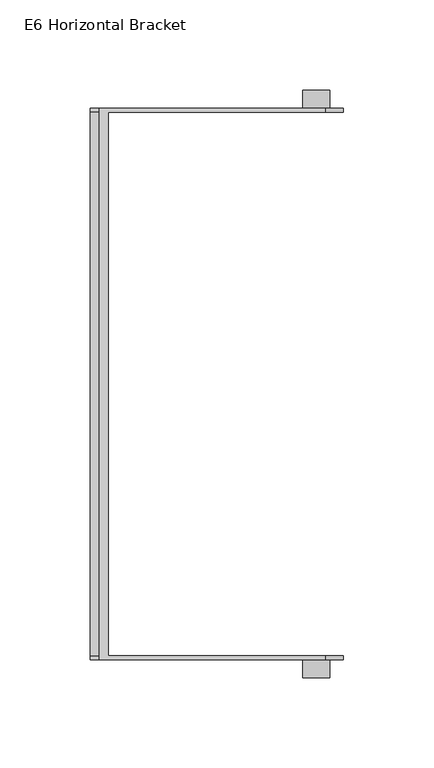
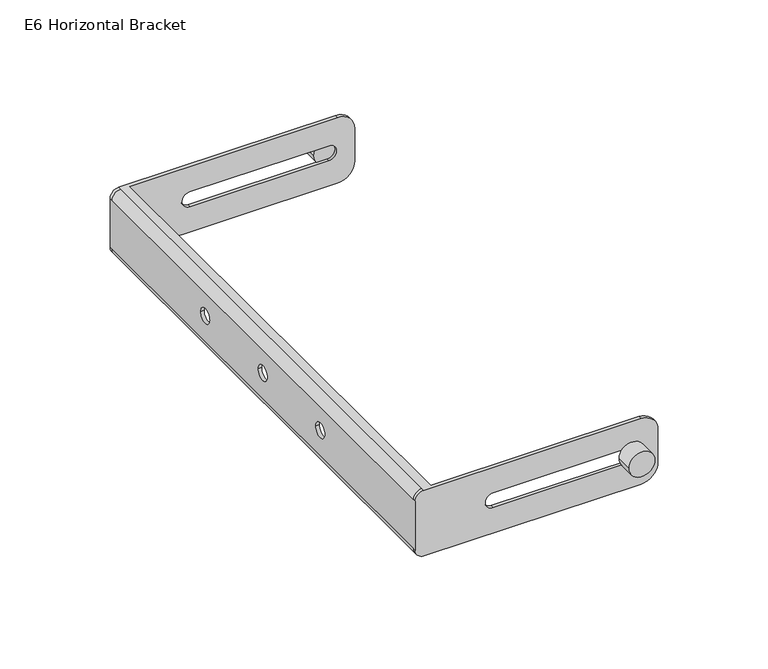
"""IFC4 building model written with IfcOpenShell, lengths in millimetres: proxy geometry, d&b E-Series E6 Horizontal Bracket : E6 Horizontal Bracket."""

from ifc_helpers import new_model, si_unit, point, frame, frame_2d, origin, place, context, project, spatial, polyline, circle_curve, trimmed, segment, composite_curve, outline, extrude, source, transform, mapped, element, save
from ifc_brep_helpers import plane_surface, cylinder_surface, revolved_surface, advanced_brep


def e6_horizontal_bracket_a06f2867(model_context):
    return source(origin(), model_context, "Body", "SolidModel", [
        extrude(outline(composite_curve([segment(trimmed(circle_curve(frame_2d((31.7616106, -11.5602808)), 7.4551077), [point((31.7616106, -4.1051731))], [point((31.7616106, -19.0153885))], False, "CARTESIAN"), True, "CONTINUOUS"), segment(trimmed(circle_curve(frame_2d((31.7616106, -11.5602808)), 7.4551077), [point((31.7616106, -19.0153885))], [point((31.7616106, -4.1051731))], False, "CARTESIAN"), True, "CONTINUOUS")], self_intersect=False)), frame((0.0, -162.5, 0.0), z_axis=(0.0, 1.0, 0.0), x_axis=(0.0, 0.0, 1.0)), (0.0, 0.0, 1.0), 10.0),
        extrude(outline(composite_curve([segment(trimmed(circle_curve(frame_2d((31.7616106, -11.5602808)), 7.4551077), [point((31.7616106, -4.1051731))], [point((31.7616106, -19.0153885))], False, "CARTESIAN"), True, "CONTINUOUS"), segment(trimmed(circle_curve(frame_2d((31.7616106, -11.5602808)), 7.4551077), [point((31.7616106, -19.0153885))], [point((31.7616106, -4.1051731))], False, "CARTESIAN"), True, "CONTINUOUS")], self_intersect=False)), frame((0.0, 152.5, 0.0), z_axis=(0.0, 1.0, 0.0), x_axis=(0.0, 0.0, 1.0)), (0.0, 0.0, 1.0), 10.0),
        advanced_brep(
        [(-131.5602808, 150.5, 11.7616106), (-131.5602808, -150.5, 11.7616106), (-136.5602808, -150.5, 16.7616106), (-136.5602808, 150.5, 16.7616106), (-131.5602808, 152.5, 11.7616106), (-6.5602808, 152.5, 11.7616106), (-6.5602808, 150.5, 11.7616106), (-126.5602808, 150.5, 11.7616106), (-126.5602808, -150.5, 11.7616106), (-6.5602808, -150.5, 11.7616106), (-6.5602808, -152.5, 11.7616106), (-131.5602808, -152.5, 11.7616106), (-126.5602808, 150.5, 13.7616106), (-126.5602808, -150.5, 13.7616106), (-131.5602808, 150.5, 13.7616106), (-131.5602808, -150.5, 13.7616106), (-132.5602808, 150.5, 13.7616106), (-132.5602808, -150.5, 13.7616106), (-134.5602808, 150.5, 15.7616106), (-134.5602808, -150.5, 15.7616106), (-134.5602808, 150.5, 47.7616106), (-134.5602808, -150.5, 47.7616106), (-134.5602808, -53.0512492, 32.6731161), (-134.5602808, -61.9930622, 32.6731161), (-134.5602808, 4.5115117, 32.6482929), (-134.5602808, -4.5115117, 32.6482929), (-134.5602808, 61.9930622, 32.6731161), (-134.5602808, 53.0512492, 32.6731161), (-132.5602808, 150.5, 49.7616106), (-132.5602808, -150.5, 49.7616106), (-131.5602808, 150.5, 49.7616106), (-131.5602808, -150.5, 49.7616106), (-126.5602808, 150.5, 49.7616106), (-126.5602808, -150.5, 49.7616106), (-126.5602808, 150.5, 51.7616106), (-126.5602808, -150.5, 51.7616106), (-6.5602808, 150.5, 51.7616106), (-6.5602808, 152.5, 51.7616106), (-131.5602808, 152.5, 51.7616106), (-131.5602808, 150.5, 51.7616106), (-131.5602808, -150.5, 51.7616106), (-131.5602808, -152.5, 51.7616106), (-6.5602808, -152.5, 51.7616106), (-6.5602808, -150.5, 51.7616106), (-136.5602808, 150.5, 46.7616106), (-136.5602808, -150.5, 46.7616106), (3.4397192, 150.5, 21.7616106), (3.4397192, 150.5, 41.7616106), (-91.5602808, 150.5, 36.2616106), (-11.5602808, 150.5, 36.2616106), (-11.5602808, 150.5, 27.2616106), (-91.5602808, 150.5, 27.2616106), (-136.5602808, 152.5, 16.7616106), (-136.5602808, 152.5, 46.7616106), (3.4397192, 152.5, 41.7616106), (3.4397192, 152.5, 21.7616106), (-91.5602808, 152.5, 36.2616106), (-91.5602808, 152.5, 27.2616106), (-11.5602808, 152.5, 27.2616106), (-11.5602808, 152.5, 36.2616106), (-136.5602808, -152.5, 16.7616106), (-136.5602808, -152.5, 46.7616106), (-136.5602808, -53.0512492, 32.6731161), (-136.5602808, -61.9930622, 32.6731161), (-136.5602808, 4.5115117, 32.6482929), (-136.5602808, -4.5115117, 32.6482929), (-136.5602808, 61.9930622, 32.6731161), (-136.5602808, 53.0512492, 32.6731161), (3.4397192, -152.5, 21.7616106), (3.4397192, -152.5, 41.7616106), (-91.5602808, -152.5, 36.2616106), (-11.5602808, -152.5, 36.2616106), (-11.5602808, -152.5, 27.2616106), (-91.5602808, -152.5, 27.2616106), (3.4397192, -150.5, 41.7616106), (3.4397192, -150.5, 21.7616106), (-91.5602808, -150.5, 36.2616106), (-91.5602808, -150.5, 27.2616106), (-11.5602808, -150.5, 27.2616106), (-11.5602808, -150.5, 36.2616106)],
        [
            (0, 1),
            (1, 2, circle_curve(frame((-131.5602808, -150.5, 16.7616106), z_axis=(0.0, 1.0, 0.0), x_axis=(-1.0, 0.0, 0.0)), 5.0)),
            (2, 3),
            (3, 0, circle_curve(frame((-131.5602808, 150.5, 16.7616106), z_axis=(0.0, -1.0, 0.0), x_axis=(-1.0, 0.0, 0.0)), 5.0)),
            (0, 4),
            (4, 5),
            (5, 6),
            (6, 7),
            (7, 8),
            (8, 9),
            (9, 10),
            (10, 11),
            (11, 1),
            (7, 12),
            (12, 13),
            (13, 8),
            (12, 14),
            (14, 15),
            (15, 13),
            (14, 16),
            (16, 17),
            (17, 15),
            (16, 18, circle_curve(frame((-132.5602808, 150.5, 15.7616106), z_axis=(0.0, 1.0, 0.0), x_axis=(-1.0, 0.0, 0.0)), 2.0)),
            (18, 19),
            (19, 17, circle_curve(frame((-132.5602808, -150.5, 15.7616106), z_axis=(0.0, -1.0, 0.0), x_axis=(-1.0, 0.0, 0.0)), 2.0)),
            (18, 20),
            (20, 21),
            (21, 19),
            (22, 23, circle_curve(frame((-134.5602808, -57.5221557, 32.6731161), z_axis=(-1.0, 0.0, 0.0), x_axis=(0.0, -1.0, 0.0)), 4.4709065)),
            (23, 22, circle_curve(frame((-134.5602808, -57.5221557, 32.6731161), z_axis=(-1.0, 0.0, 0.0), x_axis=(0.0, -1.0, 0.0)), 4.4709065)),
            (24, 25, circle_curve(frame((-134.5602808, 0.0, 32.6482929), z_axis=(-1.0, 0.0, 0.0), x_axis=(0.0, -1.0, 0.0)), 4.5115117)),
            (25, 24, circle_curve(frame((-134.5602808, 0.0, 32.6482929), z_axis=(-1.0, 0.0, 0.0), x_axis=(0.0, -1.0, 0.0)), 4.5115117)),
            (26, 27, circle_curve(frame((-134.5602808, 57.5221557, 32.6731161), z_axis=(-1.0, 0.0, 0.0), x_axis=(0.0, -1.0, 0.0)), 4.4709065)),
            (27, 26, circle_curve(frame((-134.5602808, 57.5221557, 32.6731161), z_axis=(-1.0, 0.0, 0.0), x_axis=(0.0, -1.0, 0.0)), 4.4709065)),
            (20, 28, circle_curve(frame((-132.5602808, 150.5, 47.7616106), z_axis=(0.0, 1.0, 0.0), x_axis=(-1.0, 0.0, 0.0)), 2.0)),
            (28, 29),
            (29, 21, circle_curve(frame((-132.5602808, -150.5, 47.7616106), z_axis=(0.0, -1.0, 0.0), x_axis=(-1.0, 0.0, 0.0)), 2.0)),
            (28, 30),
            (30, 31),
            (31, 29),
            (30, 32),
            (32, 33),
            (33, 31),
            (32, 34),
            (34, 35),
            (35, 33),
            (34, 36),
            (36, 37),
            (37, 38),
            (38, 39),
            (39, 40),
            (40, 41),
            (41, 42),
            (42, 43),
            (43, 35),
            (39, 44, circle_curve(frame((-131.5602808, 150.5, 46.7616106), z_axis=(0.0, -1.0, 0.0), x_axis=(-1.0, 0.0, 0.0)), 5.0)),
            (44, 45),
            (45, 40, circle_curve(frame((-131.5602808, -150.5, 46.7616106), z_axis=(0.0, 1.0, 0.0), x_axis=(-1.0, 0.0, 0.0)), 5.0)),
            (6, 46, circle_curve(frame((-6.5602808, 150.5, 21.7616106), z_axis=(0.0, -1.0, 0.0), x_axis=(-1.0, 0.0, 0.0)), 10.0)),
            (46, 47),
            (47, 36, circle_curve(frame((-6.5602808, 150.5, 41.7616106), z_axis=(0.0, -1.0, 0.0), x_axis=(-1.0, 0.0, 0.0)), 10.0)),
            (48, 49),
            (49, 50, circle_curve(frame((-11.5602808, 150.5, 31.7616106), z_axis=(0.0, 1.0, 0.0), x_axis=(-1.0, 0.0, 0.0)), 4.5)),
            (50, 51),
            (51, 48, circle_curve(frame((-91.5602808, 150.5, 31.7616106), z_axis=(0.0, 1.0, 0.0), x_axis=(-1.0, 0.0, 0.0)), 4.5)),
            (4, 52, circle_curve(frame((-131.5602808, 152.5, 16.7616106), z_axis=(0.0, 1.0, 0.0), x_axis=(-1.0, 0.0, 0.0)), 5.0)),
            (52, 53),
            (53, 38, circle_curve(frame((-131.5602808, 152.5, 46.7616106), z_axis=(0.0, 1.0, 0.0), x_axis=(-1.0, 0.0, 0.0)), 5.0)),
            (37, 54, circle_curve(frame((-6.5602808, 152.5, 41.7616106), z_axis=(0.0, 1.0, 0.0), x_axis=(-1.0, 0.0, 0.0)), 10.0)),
            (54, 55),
            (55, 5, circle_curve(frame((-6.5602808, 152.5, 21.7616106), z_axis=(0.0, 1.0, 0.0), x_axis=(-1.0, 0.0, 0.0)), 10.0)),
            (56, 57, circle_curve(frame((-91.5602808, 152.5, 31.7616106), z_axis=(0.0, -1.0, 0.0), x_axis=(-1.0, 0.0, 0.0)), 4.5)),
            (57, 58),
            (58, 59, circle_curve(frame((-11.5602808, 152.5, 31.7616106), z_axis=(0.0, -1.0, 0.0), x_axis=(-1.0, 0.0, 0.0)), 4.5)),
            (59, 56),
            (55, 46),
            (54, 47),
            (48, 56),
            (59, 49),
            (58, 50),
            (57, 51),
            (53, 44),
            (3, 52),
            (2, 60),
            (60, 61),
            (61, 45),
            (62, 63, circle_curve(frame((-136.5602808, -57.5221557, 32.6731161), z_axis=(1.0, 0.0, 0.0), x_axis=(0.0, -1.0, 0.0)), 4.4709065)),
            (63, 62, circle_curve(frame((-136.5602808, -57.5221557, 32.6731161), z_axis=(1.0, 0.0, 0.0), x_axis=(0.0, -1.0, 0.0)), 4.4709065)),
            (64, 65, circle_curve(frame((-136.5602808, 0.0, 32.6482929), z_axis=(1.0, 0.0, 0.0), x_axis=(0.0, -1.0, 0.0)), 4.5115117)),
            (65, 64, circle_curve(frame((-136.5602808, 0.0, 32.6482929), z_axis=(1.0, 0.0, 0.0), x_axis=(0.0, -1.0, 0.0)), 4.5115117)),
            (66, 67, circle_curve(frame((-136.5602808, 57.5221557, 32.6731161), z_axis=(1.0, 0.0, 0.0), x_axis=(0.0, -1.0, 0.0)), 4.4709065)),
            (67, 66, circle_curve(frame((-136.5602808, 57.5221557, 32.6731161), z_axis=(1.0, 0.0, 0.0), x_axis=(0.0, -1.0, 0.0)), 4.4709065)),
            (62, 22),
            (23, 63),
            (64, 24),
            (25, 65),
            (66, 26),
            (27, 67),
            (10, 68, circle_curve(frame((-6.5602808, -152.5, 21.7616106), z_axis=(0.0, -1.0, 0.0), x_axis=(-1.0, 0.0, 0.0)), 10.0)),
            (68, 69),
            (69, 42, circle_curve(frame((-6.5602808, -152.5, 41.7616106), z_axis=(0.0, -1.0, 0.0), x_axis=(-1.0, 0.0, 0.0)), 10.0)),
            (41, 61, circle_curve(frame((-131.5602808, -152.5, 46.7616106), z_axis=(0.0, -1.0, 0.0), x_axis=(-1.0, 0.0, 0.0)), 5.0)),
            (60, 11, circle_curve(frame((-131.5602808, -152.5, 16.7616106), z_axis=(0.0, -1.0, 0.0), x_axis=(-1.0, 0.0, 0.0)), 5.0)),
            (70, 71),
            (71, 72, circle_curve(frame((-11.5602808, -152.5, 31.7616106), z_axis=(0.0, 1.0, 0.0), x_axis=(-1.0, 0.0, 0.0)), 4.5)),
            (72, 73),
            (73, 70, circle_curve(frame((-91.5602808, -152.5, 31.7616106), z_axis=(0.0, 1.0, 0.0), x_axis=(-1.0, 0.0, 0.0)), 4.5)),
            (43, 74, circle_curve(frame((-6.5602808, -150.5, 41.7616106), z_axis=(0.0, 1.0, 0.0), x_axis=(-1.0, 0.0, 0.0)), 10.0)),
            (74, 75),
            (75, 9, circle_curve(frame((-6.5602808, -150.5, 21.7616106), z_axis=(0.0, 1.0, 0.0), x_axis=(-1.0, 0.0, 0.0)), 10.0)),
            (76, 77, circle_curve(frame((-91.5602808, -150.5, 31.7616106), z_axis=(0.0, -1.0, 0.0), x_axis=(-1.0, 0.0, 0.0)), 4.5)),
            (77, 78),
            (78, 79, circle_curve(frame((-11.5602808, -150.5, 31.7616106), z_axis=(0.0, -1.0, 0.0), x_axis=(-1.0, 0.0, 0.0)), 4.5)),
            (79, 76),
            (75, 68),
            (74, 69),
            (70, 76),
            (79, 71),
            (78, 72),
            (77, 73),
        ],
        [
            cylinder_surface(frame((-131.5602808, 150.5, 16.7616106), z_axis=(0.0, -1.0, 0.0), x_axis=(-1.0, 0.0, 0.0)), 5.0),
            plane_surface(frame((-131.5602808, -150.5, 11.7616106), z_axis=(0.0, 0.0, -1.0), x_axis=(0.0, 1.0, 0.0))),
            plane_surface(frame((-126.5602808, -150.5, 11.7616106), z_axis=(1.0, 0.0, 0.0), x_axis=(0.0, 1.0, 0.0))),
            plane_surface(frame((-126.5602808, -150.5, 13.7616106), z_axis=(0.0, 0.0, 1.0), x_axis=(0.0, 1.0, 0.0))),
            plane_surface(frame((-131.5602808, -150.5, 13.7616106), z_axis=(0.0, 0.0, 1.0), x_axis=(0.0, 1.0, 0.0))),
            revolved_surface(polyline([(-134.5602808, 150.5, 15.7616106), (-134.5602808, -150.5, 15.7616106)]), (-132.5602808, 150.5, 15.7616106), (0.0, 1.0, 0.0)),
            plane_surface(frame((-134.5602808, -150.5, 15.7616106), z_axis=(1.0, 0.0, 0.0), x_axis=(0.0, 1.0, 0.0))),
            revolved_surface(polyline([(-134.5602808, 150.5, 47.7616106), (-134.5602808, -150.5, 47.7616106)]), (-132.5602808, 0.0, 47.7616106), (0.0, 1.0, 0.0)),
            plane_surface(frame((-132.5602808, -150.5, 49.7616106), z_axis=(0.0, 0.0, -1.0), x_axis=(0.0, 1.0, 0.0))),
            plane_surface(frame((-131.5602808, -150.5, 49.7616106), z_axis=(0.0, 0.0, -1.0), x_axis=(0.0, 1.0, 0.0))),
            plane_surface(frame((-126.5602808, -150.5, 49.7616106), z_axis=(1.0, 0.0, 0.0), x_axis=(0.0, 1.0, 0.0))),
            plane_surface(frame((-126.5602808, -150.5, 51.7616106), z_axis=(0.0, 0.0, 1.0), x_axis=(0.0, 1.0, 0.0))),
            cylinder_surface(frame((-131.5602808, 0.0, 46.7616106), z_axis=(0.0, -1.0, 0.0), x_axis=(-1.0, 0.0, 0.0)), 5.0),
            plane_surface(frame((-16.5602808, 150.5, 21.7616106), z_axis=(0.0, -1.0, 0.0), x_axis=(0.0, 0.0, -1.0))),
            plane_surface(frame((-16.5602808, 152.5, 21.7616106), z_axis=(0.0, 1.0, 0.0), x_axis=(0.0, 0.0, 1.0))),
            cylinder_surface(frame((-6.5602808, 152.5, 21.7616106), z_axis=(0.0, -1.0, 0.0), x_axis=(-1.0, 0.0, 0.0)), 10.0),
            plane_surface(frame((3.4397192, 150.5, 21.7616106), z_axis=(1.0, 0.0, 0.0), x_axis=(0.0, 1.0, 0.0))),
            cylinder_surface(frame((-6.5602808, 152.5, 41.7616106), z_axis=(0.0, -1.0, 0.0), x_axis=(-1.0, 0.0, 0.0)), 10.0),
            plane_surface(frame((-91.5602808, 150.5, 36.2616106), z_axis=(0.0, 0.0, -1.0), x_axis=(0.0, 1.0, 0.0))),
            revolved_surface(polyline([(-16.0602808, 152.5, 31.7616106), (-16.0602808, 150.5, 31.7616106)]), (-11.5602808, 0.0, 31.7616106), (0.0, 1.0, 0.0)),
            plane_surface(frame((-11.5602808, 150.5, 27.2616106), z_axis=(0.0, 0.0, 1.0), x_axis=(0.0, 1.0, 0.0))),
            revolved_surface(polyline([(-96.0602808, 152.5, 31.7616106), (-96.0602808, 150.5, 31.7616106)]), (-91.5602808, 0.0, 31.7616106), (0.0, 1.0, 0.0)),
            cylinder_surface(frame((-131.5602808, 152.5, 46.7616106), z_axis=(0.0, -1.0, 0.0), x_axis=(-1.0, 0.0, 0.0)), 5.0),
            cylinder_surface(frame((-131.5602808, 152.5, 16.7616106), z_axis=(0.0, -1.0, 0.0), x_axis=(-1.0, 0.0, 0.0)), 5.0),
            plane_surface(frame((-136.5602808, 150.5, 46.7616106), z_axis=(-1.0, 0.0, 0.0), x_axis=(0.0, 1.0, 0.0))),
            revolved_surface(polyline([(-134.5602808, -61.9930622, 32.6731161), (-136.5602808, -61.9930622, 32.6731161)]), (-136.5602808, -57.5221557, 32.6731161), (1.0, 0.0, 0.0)),
            revolved_surface(polyline([(-134.5602808, -4.5115117, 32.6482929), (-136.5602808, -4.5115117, 32.6482929)]), (-136.5602808, 0.0, 32.6482929), (1.0, 0.0, 0.0)),
            revolved_surface(polyline([(-134.5602808, 53.0512492, 32.6731161), (-136.5602808, 53.0512492, 32.6731161)]), (-136.5602808, 57.5221557, 32.6731161), (1.0, 0.0, 0.0)),
            plane_surface(frame((-16.5602808, -152.5, 21.7616106), z_axis=(0.0, -1.0, 0.0), x_axis=(0.0, 0.0, -1.0))),
            plane_surface(frame((-16.5602808, -150.5, 21.7616106), z_axis=(0.0, 1.0, 0.0), x_axis=(0.0, 0.0, 1.0))),
            cylinder_surface(frame((-6.5602808, -150.5, 21.7616106), z_axis=(0.0, -1.0, 0.0), x_axis=(-1.0, 0.0, 0.0)), 10.0),
            plane_surface(frame((3.4397192, -152.5, 21.7616106), z_axis=(1.0, 0.0, 0.0), x_axis=(0.0, 1.0, 0.0))),
            cylinder_surface(frame((-6.5602808, -150.5, 41.7616106), z_axis=(0.0, -1.0, 0.0), x_axis=(-1.0, 0.0, 0.0)), 10.0),
            plane_surface(frame((-91.5602808, -152.5, 36.2616106), z_axis=(0.0, 0.0, -1.0), x_axis=(0.0, 1.0, 0.0))),
            revolved_surface(polyline([(-16.0602808, -150.5, 31.7616106), (-16.0602808, -152.5, 31.7616106)]), (-11.5602808, 0.0, 31.7616106), (0.0, 1.0, 0.0)),
            plane_surface(frame((-11.5602808, -152.5, 27.2616106), z_axis=(0.0, 0.0, 1.0), x_axis=(0.0, 1.0, 0.0))),
            revolved_surface(polyline([(-96.0602808, -150.5, 31.7616106), (-96.0602808, -152.5, 31.7616106)]), (-91.5602808, 0.0, 31.7616106), (0.0, 1.0, 0.0)),
            cylinder_surface(frame((-131.5602808, -150.5, 46.7616106), z_axis=(0.0, -1.0, 0.0), x_axis=(-1.0, 0.0, 0.0)), 5.0),
            cylinder_surface(frame((-131.5602808, -150.5, 16.7616106), z_axis=(0.0, -1.0, 0.0), x_axis=(-1.0, 0.0, 0.0)), 5.0),
        ],
        [
            (0, [[1, 2, 3, 4]]),
            (1, [[-1, 5, 6, 7, 8, 9, 10, 11, 12, 13]]),
            (2, [[-9, 14, 15, 16]]),
            (3, [[-15, 17, 18, 19]]),
            (4, [[-18, 20, 21, 22]]),
            (5, [[-21, 23, 24, 25]]),
            (6, [[-24, 26, 27, 28], [29, 30], [31, 32], [33, 34]]),
            (7, [[-27, 35, 36, 37]]),
            (8, [[-36, 38, 39, 40]]),
            (9, [[-39, 41, 42, 43]]),
            (10, [[-42, 44, 45, 46]]),
            (11, [[-45, 47, 48, 49, 50, 51, 52, 53, 54, 55]]),
            (12, [[-51, 56, 57, 58]]),
            (13, [[59, 60, 61, -47, -44, -41, -38, -35, -26, -23, -20, -17, -14, -8], [62, 63, 64, 65]]),
            (14, [[-6, 66, 67, 68, -49, 69, 70, 71], [72, 73, 74, 75]]),
            (15, [[-59, -7, -71, 76]]),
            (16, [[-60, -76, -70, 77]]),
            (17, [[-61, -77, -69, -48]]),
            (18, [[-62, 78, -75, 79]]),
            (19, [[-63, -79, -74, 80]]),
            (20, [[-64, -80, -73, 81]]),
            (21, [[-65, -81, -72, -78]]),
            (22, [[-68, 82, -56, -50]]),
            (23, [[-66, -5, -4, 83]]),
            (24, [[-67, -83, -3, 84, 85, 86, -57, -82], [87, 88], [89, 90], [91, 92]]),
            (25, [[-87, 93, -30, 94]]),
            (25, [[-88, -94, -29, -93]]),
            (26, [[-89, 95, -32, 96]]),
            (26, [[-90, -96, -31, -95]]),
            (27, [[-91, 97, -34, 98]]),
            (27, [[-92, -98, -33, -97]]),
            (28, [[99, 100, 101, -53, 102, -85, 103, -12], [104, 105, 106, 107]]),
            (29, [[108, 109, 110, -10, -16, -19, -22, -25, -28, -37, -40, -43, -46, -55], [111, 112, 113, 114]]),
            (30, [[-99, -11, -110, 115]]),
            (31, [[-100, -115, -109, 116]]),
            (32, [[-101, -116, -108, -54]]),
            (33, [[-104, 117, -114, 118]]),
            (34, [[-105, -118, -113, 119]]),
            (35, [[-106, -119, -112, 120]]),
            (36, [[-107, -120, -111, -117]]),
            (37, [[-102, -52, -58, -86]]),
            (38, [[-103, -84, -2, -13]]),
        ],
    ),
    ])


if __name__ == "__main__":
    model = new_model("IFC4")
    model_context = context("Model", 3, world=origin())
    ifc_project = project(units=[si_unit("LENGTHUNIT", "METRE", prefix="MILLI")], contexts=[model_context])
    site = spatial("IfcSite", under=ifc_project)
    building = spatial("IfcBuilding", under=site)
    placement = place(None, origin())
    e6_horizontal_bracket_shape = e6_horizontal_bracket_a06f2867(model_context)
    element("IfcBuildingElementProxy", 1, Name="d&b E-Series E6 Horizontal Bracket : E6 Horizontal Bracket", ObjectType="d&b E-Series E6 Horizontal Bracket : E6 Horizontal Bracket", at=placement, inside=building, context=model_context, shape_type="MappedRepresentation", body=[
        mapped(e6_horizontal_bracket_shape, transform((0.0, 0.0, 0.0), x_axis=(1.0, 0.0, 0.0), y_axis=(0.0, 1.0, 0.0), z_axis=(0.0, 0.0, 1.0))),
    ])
    save(model, "model.ifc")
